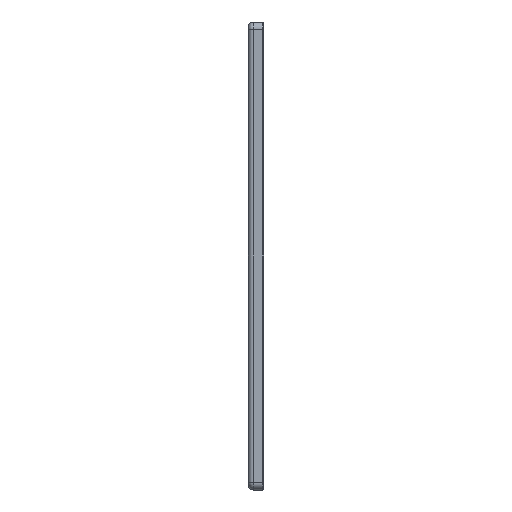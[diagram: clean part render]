
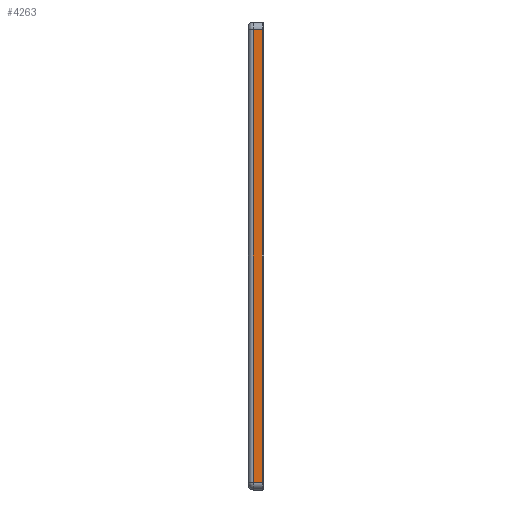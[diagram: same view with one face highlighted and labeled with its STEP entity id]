
A CAD part, left-side view. The second image highlights one B-rep face of the part: STEP entity #4263.
In plain terms, the highlighted planar face has unit normal (-1, 0, 0).
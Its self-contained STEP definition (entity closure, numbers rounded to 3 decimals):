
#728 = LINE ( 'NONE', #7459, #734 ) ;
#734 = VECTOR ( 'NONE', #7439, 1000. ) ;
#766 = LINE ( 'NONE', #8018, #789 ) ;
#789 = VECTOR ( 'NONE', #7996, 1000. ) ;
#836 = LINE ( 'NONE', #4650, #843 ) ;
#843 = VECTOR ( 'NONE', #4355, 1000. ) ;
#923 = LINE ( 'NONE', #3476, #996 ) ;
#996 = VECTOR ( 'NONE', #2547, 1000. ) ;
#1603 = FACE_OUTER_BOUND ( 'NONE', #5844, .T. ) ;
#2547 = DIRECTION ( 'NONE',  ( 0., 0., -1. ) ) ;
#2569 = CARTESIAN_POINT ( 'NONE',  ( -225., 6.8, -145. ) ) ;
#2573 = CARTESIAN_POINT ( 'NONE',  ( -225., 6.8, 145. ) ) ;
#2577 = CARTESIAN_POINT ( 'NONE',  ( -225., 1., -145. ) ) ;
#2578 = CARTESIAN_POINT ( 'NONE',  ( -225., 1., 145. ) ) ;
#3476 = CARTESIAN_POINT ( 'NONE',  ( -225., 6.8, 150. ) ) ;
#3709 = DIRECTION ( 'NONE',  ( 0., 0., -1. ) ) ;
#3710 = DIRECTION ( 'NONE',  ( 1., 0., 0. ) ) ;
#3712 = PLANE ( 'NONE',  #5816 ) ;
#3717 = CARTESIAN_POINT ( 'NONE',  ( -225., 9.8, 150. ) ) ;
#4263 = ADVANCED_FACE ( 'NONE', ( #1603 ), #3712, .F. ) ;
#4355 = DIRECTION ( 'NONE',  ( 0., 0., 1. ) ) ;
#4650 = CARTESIAN_POINT ( 'NONE',  ( -225., 1., 150. ) ) ;
#5816 = AXIS2_PLACEMENT_3D ( 'NONE', #3717, #3710, #3709 ) ;
#5844 = EDGE_LOOP ( 'NONE', ( #7264, #7287, #7220, #7295 ) ) ;
#7220 = ORIENTED_EDGE ( 'NONE', *, *, #7848, .T. ) ;
#7264 = ORIENTED_EDGE ( 'NONE', *, *, #7574, .T. ) ;
#7287 = ORIENTED_EDGE ( 'NONE', *, *, #7900, .T. ) ;
#7295 = ORIENTED_EDGE ( 'NONE', *, *, #8187, .T. ) ;
#7439 = DIRECTION ( 'NONE',  ( 0., -1., 0. ) ) ;
#7459 = CARTESIAN_POINT ( 'NONE',  ( -225., 9.8, -145. ) ) ;
#7574 = EDGE_CURVE ( 'NONE', #8684, #8686, #728, .T. ) ;
#7848 = EDGE_CURVE ( 'NONE', #8688, #8687, #766, .T. ) ;
#7900 = EDGE_CURVE ( 'NONE', #8686, #8688, #836, .T. ) ;
#7996 = DIRECTION ( 'NONE',  ( 0., 1., 0. ) ) ;
#8018 = CARTESIAN_POINT ( 'NONE',  ( -225., 9.8, 145. ) ) ;
#8187 = EDGE_CURVE ( 'NONE', #8687, #8684, #923, .T. ) ;
#8684 = VERTEX_POINT ( 'NONE', #2569 ) ;
#8686 = VERTEX_POINT ( 'NONE', #2577 ) ;
#8687 = VERTEX_POINT ( 'NONE', #2573 ) ;
#8688 = VERTEX_POINT ( 'NONE', #2578 ) ;
